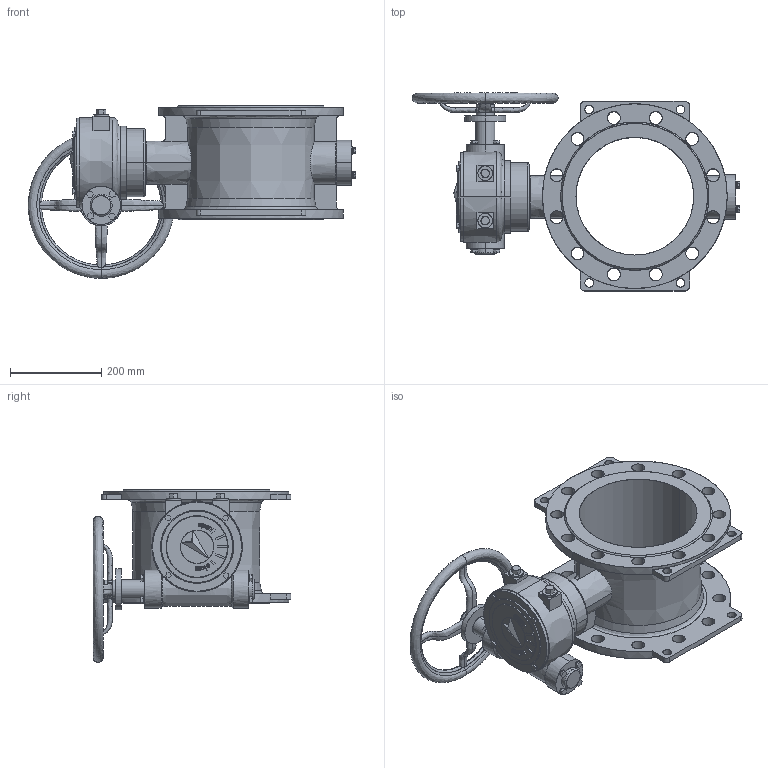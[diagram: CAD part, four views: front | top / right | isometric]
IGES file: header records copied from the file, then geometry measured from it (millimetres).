
Start section: SolidWorks IGES file using analytic representation for surfaces
Global section: file name: 8HF:\2014年工作\泰科菲三维模型资料\DN250 PN16\DN250 PN16.IGS; native system: SolidWorks 2012; preprocessor: SolidWorks 2012; author: Administrator; date: 140926.081334; units: millimetre
Bounding box: 718 x 433.75 x 378.31 mm (x, y, z)
Surface area: 1191225.7 mm2 (no closed solid volume)
Topology: 0 solids, 0 shells, 608 faces, 12661 edges, 12661 vertices
Faces by surface type: bspline 399, revolution 209
